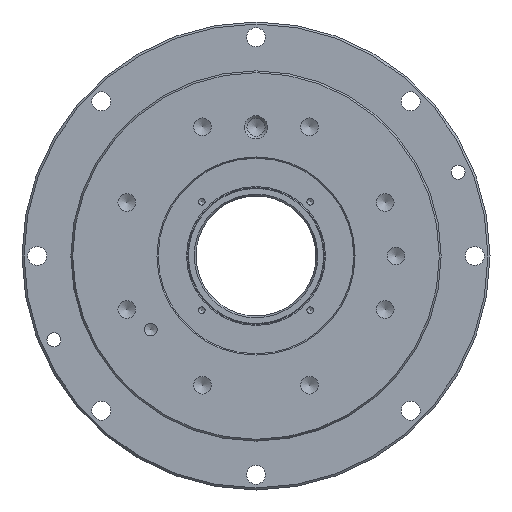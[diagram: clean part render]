
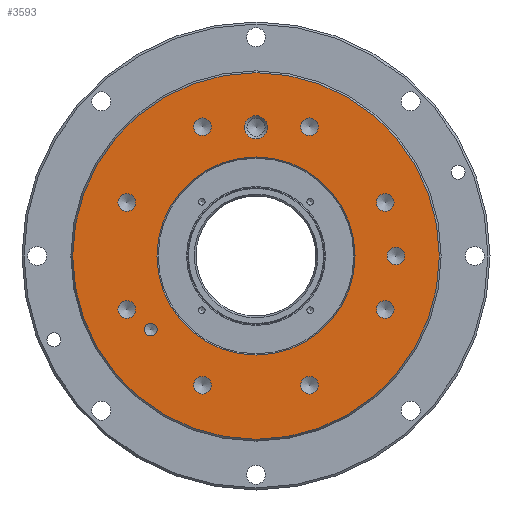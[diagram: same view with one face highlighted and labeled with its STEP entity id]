
A CAD part, left-side view. The second image highlights one B-rep face of the part: STEP entity #3593.
In plain terms, the highlighted planar face has unit normal (-1, 0, 0).
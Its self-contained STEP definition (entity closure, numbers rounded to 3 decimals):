
#585=CARTESIAN_POINT('',(-79.,50.0,-32.0));
#586=VERTEX_POINT('',#585);
#587=CARTESIAN_POINT('',(-79.,50.0,-35.0));
#588=DIRECTION('',(1.0,0.0,0.0));
#589=DIRECTION('',(0.0,0.0,1.0));
#590=AXIS2_PLACEMENT_3D('',#587,#588,#589);
#591=CIRCLE('',#590,3.);
#592=EDGE_CURVE('',#586,#586,#591,.T.);
#664=CARTESIAN_POINT('',(-79.,0.0,66.75));
#665=VERTEX_POINT('',#664);
#666=CARTESIAN_POINT('',(-79.,0.0,61.25));
#667=DIRECTION('',(1.0,0.0,0.0));
#668=DIRECTION('',(0.0,0.0,1.0));
#669=AXIS2_PLACEMENT_3D('',#666,#667,#668);
#670=CIRCLE('',#669,5.5);
#671=EDGE_CURVE('',#665,#665,#670,.T.);
#784=CARTESIAN_POINT('',(-79.,-61.438,-21.26));
#785=VERTEX_POINT('',#784);
#786=CARTESIAN_POINT('',(-79.,-61.438,-25.448));
#787=DIRECTION('',(1.0,0.0,0.0));
#788=DIRECTION('',(0.0,0.0,1.0));
#789=AXIS2_PLACEMENT_3D('',#786,#787,#788);
#790=CIRCLE('',#789,4.188);
#791=EDGE_CURVE('',#785,#785,#790,.T.);
#863=CARTESIAN_POINT('',(-79.,25.448,-57.25));
#864=VERTEX_POINT('',#863);
#865=CARTESIAN_POINT('',(-79.,25.448,-61.438));
#866=DIRECTION('',(1.0,0.0,0.0));
#867=DIRECTION('',(0.0,0.0,1.0));
#868=AXIS2_PLACEMENT_3D('',#865,#866,#867);
#869=CIRCLE('',#868,4.188);
#870=EDGE_CURVE('',#864,#864,#869,.T.);
#942=CARTESIAN_POINT('',(-79.,61.438,29.636));
#943=VERTEX_POINT('',#942);
#944=CARTESIAN_POINT('',(-79.,61.438,25.448));
#945=DIRECTION('',(1.0,0.0,0.0));
#946=DIRECTION('',(0.0,0.0,1.0));
#947=AXIS2_PLACEMENT_3D('',#944,#945,#946);
#948=CIRCLE('',#947,4.188);
#949=EDGE_CURVE('',#943,#943,#948,.T.);
#1021=CARTESIAN_POINT('',(-79.,-25.448,65.626));
#1022=VERTEX_POINT('',#1021);
#1023=CARTESIAN_POINT('',(-79.,-25.448,61.438));
#1024=DIRECTION('',(1.0,0.0,0.0));
#1025=DIRECTION('',(0.0,0.0,1.0));
#1026=AXIS2_PLACEMENT_3D('',#1023,#1024,#1025);
#1027=CIRCLE('',#1026,4.188);
#1028=EDGE_CURVE('',#1022,#1022,#1027,.T.);
#1100=CARTESIAN_POINT('',(-79.,-61.438,29.636));
#1101=VERTEX_POINT('',#1100);
#1102=CARTESIAN_POINT('',(-79.,-61.438,25.448));
#1103=DIRECTION('',(1.0,0.0,0.0));
#1104=DIRECTION('',(0.0,0.0,1.0));
#1105=AXIS2_PLACEMENT_3D('',#1102,#1103,#1104);
#1106=CIRCLE('',#1105,4.188);
#1107=EDGE_CURVE('',#1101,#1101,#1106,.T.);
#1179=CARTESIAN_POINT('',(-79.,25.448,65.626));
#1180=VERTEX_POINT('',#1179);
#1181=CARTESIAN_POINT('',(-79.,25.448,61.438));
#1182=DIRECTION('',(1.0,0.0,0.0));
#1183=DIRECTION('',(0.0,0.0,1.0));
#1184=AXIS2_PLACEMENT_3D('',#1181,#1182,#1183);
#1185=CIRCLE('',#1184,4.188);
#1186=EDGE_CURVE('',#1180,#1180,#1185,.T.);
#1258=CARTESIAN_POINT('',(-79.,61.438,-21.26));
#1259=VERTEX_POINT('',#1258);
#1260=CARTESIAN_POINT('',(-79.,61.438,-25.448));
#1261=DIRECTION('',(1.0,0.0,0.0));
#1262=DIRECTION('',(0.0,0.0,1.0));
#1263=AXIS2_PLACEMENT_3D('',#1260,#1261,#1262);
#1264=CIRCLE('',#1263,4.188);
#1265=EDGE_CURVE('',#1259,#1259,#1264,.T.);
#1337=CARTESIAN_POINT('',(-79.,-25.448,-57.25));
#1338=VERTEX_POINT('',#1337);
#1339=CARTESIAN_POINT('',(-79.,-25.448,-61.438));
#1340=DIRECTION('',(1.0,0.0,0.0));
#1341=DIRECTION('',(0.0,0.0,1.0));
#1342=AXIS2_PLACEMENT_3D('',#1339,#1340,#1341);
#1343=CIRCLE('',#1342,4.188);
#1344=EDGE_CURVE('',#1338,#1338,#1343,.T.);
#1416=CARTESIAN_POINT('',(-79.,-66.5,4.188));
#1417=VERTEX_POINT('',#1416);
#1418=CARTESIAN_POINT('',(-79.,-66.5,0.0));
#1419=DIRECTION('',(1.0,0.0,0.0));
#1420=DIRECTION('',(0.0,0.0,1.0));
#1421=AXIS2_PLACEMENT_3D('',#1418,#1419,#1420);
#1422=CIRCLE('',#1421,4.188);
#1423=EDGE_CURVE('',#1417,#1417,#1422,.T.);
#3526=CARTESIAN_POINT('',(-79.,47.077,0.0));
#3527=VERTEX_POINT('',#3526);
#3528=CARTESIAN_POINT('',(-79.,0.0,0.0));
#3529=DIRECTION('',(1.0,0.0,0.0));
#3530=DIRECTION('',(0.0,1.0,0.0));
#3531=AXIS2_PLACEMENT_3D('',#3528,#3529,#3530);
#3532=CIRCLE('',#3531,47.077);
#3533=EDGE_CURVE('',#3527,#3527,#3532,.T.);
#3541=CARTESIAN_POINT('',(-79.,67.106,0.0));
#3542=DIRECTION('',(-1.0,0.0,0.0));
#3543=DIRECTION('',(0.0,0.0,1.0));
#3544=AXIS2_PLACEMENT_3D('',#3541,#3542,#3543);
#3545=PLANE('',#3544);
#3546=CARTESIAN_POINT('',(-79.,87.134,0.0));
#3547=VERTEX_POINT('',#3546);
#3548=CARTESIAN_POINT('',(-79.,0.0,0.0));
#3549=DIRECTION('',(1.0,0.0,0.0));
#3550=DIRECTION('',(0.0,1.0,0.0));
#3551=AXIS2_PLACEMENT_3D('',#3548,#3549,#3550);
#3552=CIRCLE('',#3551,87.134);
#3553=EDGE_CURVE('',#3547,#3547,#3552,.T.);
#3554=ORIENTED_EDGE('',*,*,#3553,.F.);
#3555=EDGE_LOOP('',(#3554));
#3556=FACE_OUTER_BOUND('',#3555,.T.);
#3557=ORIENTED_EDGE('',*,*,#592,.T.);
#3558=EDGE_LOOP('',(#3557));
#3559=FACE_BOUND('',#3558,.T.);
#3560=ORIENTED_EDGE('',*,*,#671,.T.);
#3561=EDGE_LOOP('',(#3560));
#3562=FACE_BOUND('',#3561,.T.);
#3563=ORIENTED_EDGE('',*,*,#791,.T.);
#3564=EDGE_LOOP('',(#3563));
#3565=FACE_BOUND('',#3564,.T.);
#3566=ORIENTED_EDGE('',*,*,#870,.T.);
#3567=EDGE_LOOP('',(#3566));
#3568=FACE_BOUND('',#3567,.T.);
#3569=ORIENTED_EDGE('',*,*,#949,.T.);
#3570=EDGE_LOOP('',(#3569));
#3571=FACE_BOUND('',#3570,.T.);
#3572=ORIENTED_EDGE('',*,*,#1028,.T.);
#3573=EDGE_LOOP('',(#3572));
#3574=FACE_BOUND('',#3573,.T.);
#3575=ORIENTED_EDGE('',*,*,#1107,.T.);
#3576=EDGE_LOOP('',(#3575));
#3577=FACE_BOUND('',#3576,.T.);
#3578=ORIENTED_EDGE('',*,*,#1186,.T.);
#3579=EDGE_LOOP('',(#3578));
#3580=FACE_BOUND('',#3579,.T.);
#3581=ORIENTED_EDGE('',*,*,#1265,.T.);
#3582=EDGE_LOOP('',(#3581));
#3583=FACE_BOUND('',#3582,.T.);
#3584=ORIENTED_EDGE('',*,*,#1344,.T.);
#3585=EDGE_LOOP('',(#3584));
#3586=FACE_BOUND('',#3585,.T.);
#3587=ORIENTED_EDGE('',*,*,#1423,.T.);
#3588=EDGE_LOOP('',(#3587));
#3589=FACE_BOUND('',#3588,.T.);
#3590=ORIENTED_EDGE('',*,*,#3533,.T.);
#3591=EDGE_LOOP('',(#3590));
#3592=FACE_BOUND('',#3591,.T.);
#3593=ADVANCED_FACE('',(#3556,#3559,#3562,#3565,#3568,#3571,#3574,#3577,#3580,#3583,#3586,#3589,#3592),#3545,.T.);
